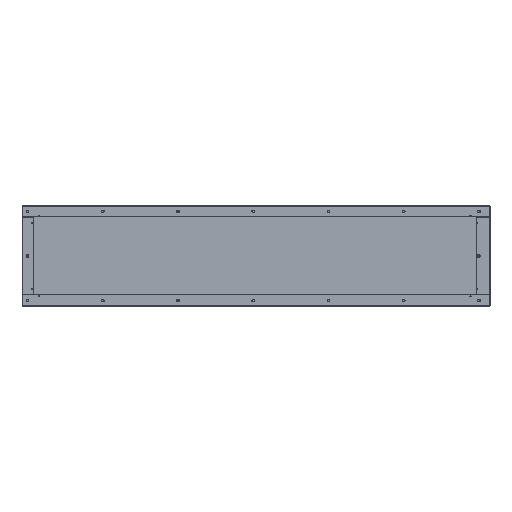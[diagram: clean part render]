
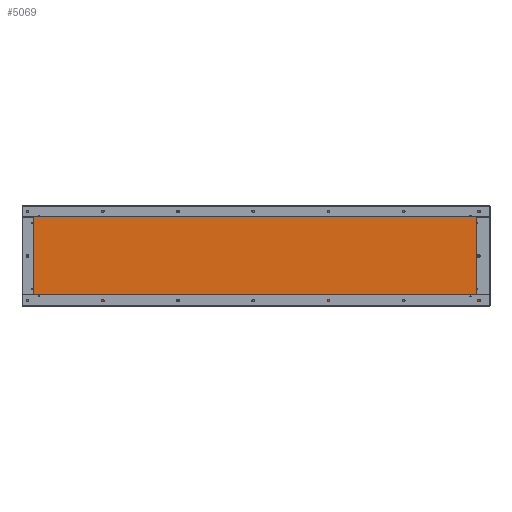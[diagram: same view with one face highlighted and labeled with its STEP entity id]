
A CAD part, top view. The second image highlights one B-rep face of the part: STEP entity #5069.
In plain terms, the highlighted planar face has unit normal (0, 0, 1).
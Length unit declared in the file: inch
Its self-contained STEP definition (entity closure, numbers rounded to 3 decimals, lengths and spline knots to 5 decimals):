
#627=DIRECTION('',(1.,0.,0.));
#628=VECTOR('',#627,83.776);
#629=CARTESIAN_POINT('',(-41.888,-8.888,0.06));
#630=LINE('',#629,#628);
#679=DIRECTION('',(0.,-1.,0.));
#680=VECTOR('',#679,17.776);
#681=CARTESIAN_POINT('',(-41.888,8.888,0.06));
#682=LINE('',#681,#680);
#1316=DIRECTION('',(-1.,0.,0.));
#1317=VECTOR('',#1316,83.776);
#1318=CARTESIAN_POINT('',(41.888,8.888,0.06));
#1319=LINE('',#1318,#1317);
#1969=DIRECTION('',(0.,1.,0.));
#1970=VECTOR('',#1969,17.776);
#1971=CARTESIAN_POINT('',(41.888,-8.888,0.06));
#1972=LINE('',#1971,#1970);
#3257=CARTESIAN_POINT('',(41.888,8.888,0.06));
#3258=CARTESIAN_POINT('',(-41.888,8.888,0.06));
#3259=VERTEX_POINT('',#3257);
#3260=VERTEX_POINT('',#3258);
#3261=CARTESIAN_POINT('',(-41.888,-8.888,0.06));
#3262=VERTEX_POINT('',#3261);
#3263=CARTESIAN_POINT('',(41.888,-8.888,0.06));
#3264=VERTEX_POINT('',#3263);
#5055=CARTESIAN_POINT('',(0.,0.,0.06));
#5056=DIRECTION('',(0.,0.,1.));
#5057=DIRECTION('',(1.,0.,0.));
#5058=AXIS2_PLACEMENT_3D('',#5055,#5056,#5057);
#5059=PLANE('',#5058);
#5060=ORIENTED_EDGE('',*,*,#5047,.F.);
#5062=ORIENTED_EDGE('',*,*,#5061,.F.);
#5064=ORIENTED_EDGE('',*,*,#5063,.F.);
#5066=ORIENTED_EDGE('',*,*,#5065,.F.);
#5067=EDGE_LOOP('',(#5060,#5062,#5064,#5066));
#5068=FACE_OUTER_BOUND('',#5067,.F.);
#5047=EDGE_CURVE('',#3262,#3264,#630,.T.);
#5061=EDGE_CURVE('',#3260,#3262,#682,.T.);
#5063=EDGE_CURVE('',#3259,#3260,#1319,.T.);
#5065=EDGE_CURVE('',#3264,#3259,#1972,.T.);
#5069=ADVANCED_FACE('',(#5068),#5059,.T.);
